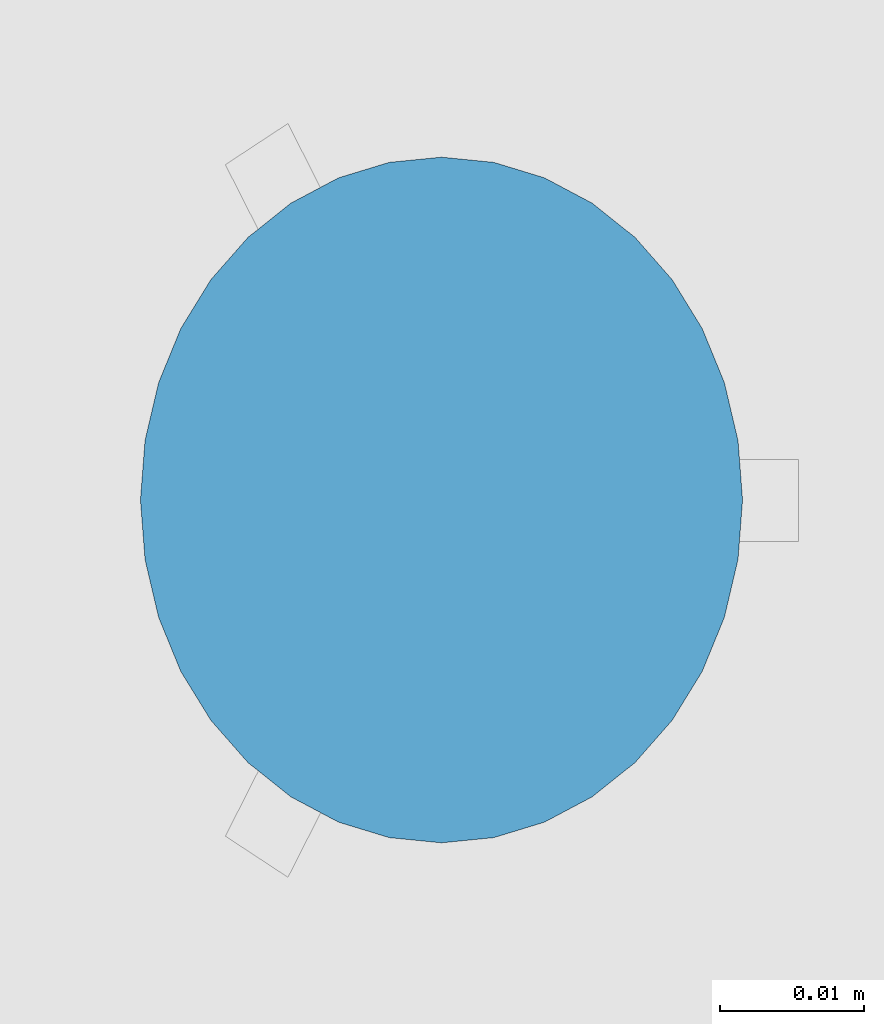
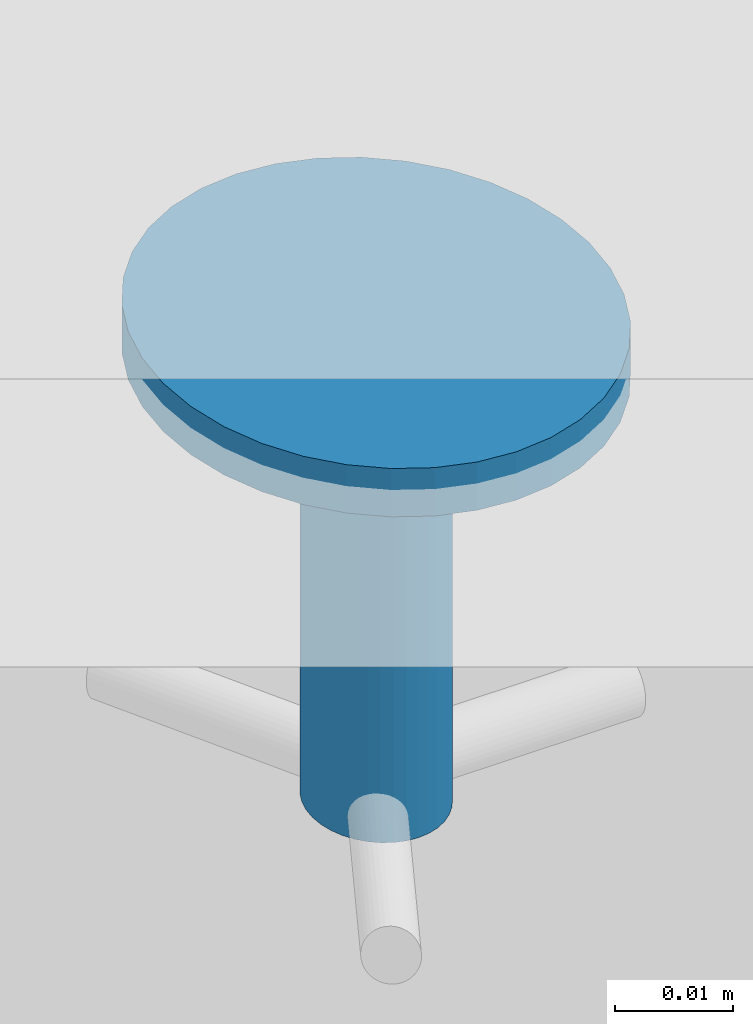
# One storey, part 289 of 788: 1 building element part, 1 element without a shape of its own.
"""IFC2X3 building model written with IfcOpenShell, lengths in millimetres."""

from ifc_helpers import new_model, entity, si_unit, converted_unit, derived_unit, money_unit, direction, frame, origin_with_axes, place, context, subcontext, project, spatial, faceted_brep, source, transform, mapped, material, type_object, element, aggregate, save


model = new_model("IFC2X3")

# Units and contexts
model_context = context("Model", 3, precision=0.01, world=origin_with_axes(), true_north=direction((0.0, 1.0)))
plan_context = context("Plan", 3, precision=0.01, world=origin_with_axes(), true_north=direction((0.0, 1.0)))
body_context = subcontext(model_context, "Body", "Model", "MODEL_VIEW")
ifc_project = project(units=[si_unit("LENGTHUNIT", "METRE", prefix="MILLI"), si_unit("AREAUNIT", "SQUARE_METRE"), si_unit("VOLUMEUNIT", "CUBIC_METRE"), converted_unit("PLANEANGLEUNIT", "DEGREE", entity("IfcPlaneAngleMeasure", 0.0174532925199), si_unit("PLANEANGLEUNIT", "RADIAN"), dimensions=[0, 0, 0, 0, 0, 0, 0]), money_unit("EUR"), converted_unit("TIMEUNIT", "Year", entity("IfcTimeMeasure", 31556926.0), si_unit("TIMEUNIT", "SECOND"), dimensions=[0, 0, 1, 0, 0, 0, 0]), si_unit("MASSUNIT", "GRAM", prefix="KILO"), si_unit("THERMODYNAMICTEMPERATUREUNIT", "DEGREE_CELSIUS"), si_unit("LUMINOUSINTENSITYUNIT", "LUMEN"), si_unit("ENERGYUNIT", "JOULE", prefix="MEGA"), derived_unit("THERMALCONDUCTANCEUNIT", [(si_unit("POWERUNIT", "WATT"), 1), (si_unit("LENGTHUNIT", "METRE"), -1), (si_unit("THERMODYNAMICTEMPERATUREUNIT", "KELVIN"), -1)]), derived_unit("SPECIFICHEATCAPACITYUNIT", [(si_unit("ENERGYUNIT", "JOULE"), 1), (si_unit("MASSUNIT", "GRAM", prefix="KILO"), -1), (si_unit("THERMODYNAMICTEMPERATUREUNIT", "KELVIN"), -1)]), derived_unit("MASSDENSITYUNIT", [(si_unit("MASSUNIT", "GRAM", prefix="KILO"), 1), (si_unit("VOLUMEUNIT", "CUBIC_METRE"), -1)])], contexts=[model_context, plan_context])

# Site, building, storey
site_placement = place(None, origin_with_axes())
site = spatial("IfcSite", under=ifc_project, at=site_placement, Name="Site", CompositionType="ELEMENT")
building_placement = place(site_placement, origin_with_axes())
building = spatial("IfcBuilding", under=site, at=building_placement, Name="Naam gebouw", CompositionType="ELEMENT")
storey_placement = place(building_placement, origin_with_axes())
storey = spatial("IfcBuildingStorey", under=building, at=storey_placement, Name="Begane grond", CompositionType="ELEMENT", Elevation=0.0)

# Proxy, building element part
building_element_proxy_type = type_object("IfcBuildingElementProxyType", Name="plafondhaak", PredefinedType="NOTDEFINED")
proxy_placement = place(storey_placement, frame((48308.597223, 15372.7087123, 960.0), z_axis=(0.0, 0.0, 1.0), x_axis=(1.0, 0.0, 0.0)))
proxy = element("IfcBuildingElementProxy", 1, at=proxy_placement, inside=storey, type_object=building_element_proxy_type, Name="garderobehaak")
ifc_material = material(Name="_Dichte arcering")
shared_shape = source(origin_with_axes(), body_context, "Body", "Brep", [
    faceted_brep([(-17.5871200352, 3.81461944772, 50.0), (-17.5871200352, 3.81461944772, 45.0), (-14.2952839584, 5.56266277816, 45.0), (-14.2952839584, 5.56266277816, 50.0), (-21.0954971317, 2.74408618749, 50.0), (-21.0954971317, 2.74408618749, 45.0), (-5.13338153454, 17.9967404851, 45.0), (-6.66838990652, 14.2480494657, 45.0), (-8.75169938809, 10.8598540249, 45.0), (-11.3200096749, 7.93510276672, 45.0), (-24.7138149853, 2.38359060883, 45.0), (-28.3321328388, 2.74408618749, 45.0), (-31.8405099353, 3.81461944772, 45.0), (-35.1323460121, 5.56266277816, 45.0), (-38.1076202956, 7.93510276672, 45.0), (-40.6759305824, 10.8598540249, 45.0), (-42.759240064, 14.2480494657, 45.0), (-44.294248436, 17.9967404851, 45.0), (-45.2343152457, 21.9920250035, 45.0), (-45.550877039, 26.1125083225, 45.0), (-45.2343152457, 30.2329916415, 45.0), (-44.294248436, 34.2282761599, 45.0), (-42.759240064, 37.9769671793, 45.0), (-40.6759305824, 41.3651626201, 45.0), (-38.1076202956, 44.2899138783, 45.0), (-35.1323460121, 46.6623538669, 45.0), (-31.8405099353, 48.4103971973, 45.0), (-28.3321328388, 49.4809304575, 45.0), (-24.7138149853, 49.8414260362, 45.0), (-21.0954971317, 49.4809304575, 45.0), (-17.5871200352, 48.4103971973, 45.0), (-14.2952839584, 46.6623538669, 45.0), (-11.3200096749, 44.2899138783, 45.0), (-8.75169938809, 41.3651626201, 45.0), (-6.66838990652, 37.9769671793, 45.0), (-5.13338153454, 34.2282761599, 45.0), (-4.19331472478, 30.2329916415, 45.0), (-3.87675293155, 26.1125083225, 45.0), (-4.19331472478, 21.9920250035, 45.0), (-24.7138149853, 18.9938330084, 45.0), (-23.6283196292, 19.101981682, 45.0), (-22.5758065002, 19.4231416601, 45.0), (-21.5882556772, 19.9475546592, 45.0), (-20.6956733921, 20.6592866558, 45.0), (-19.9251803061, 21.5367120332, 45.0), (-19.3001874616, 22.5531706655, 45.0), (-18.83968495, 23.6777779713, 45.0), (-18.5576649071, 24.8763633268, 45.0), (-18.4626963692, 26.1125083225, 45.0), (-18.5576649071, 27.3486533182, 45.0), (-18.83968495, 28.5472386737, 45.0), (-19.3001874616, 29.6718459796, 45.0), (-19.9251803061, 30.6883046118, 45.0), (-20.6956733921, 31.5657299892, 45.0), (-21.5882556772, 32.2774619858, 45.0), (-22.5758065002, 32.8018749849, 45.0), (-23.6283196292, 33.123034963, 45.0), (-24.7138149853, 33.2311836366, 45.0), (-25.7993103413, 33.123034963, 45.0), (-26.8518234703, 32.8018749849, 45.0), (-27.8393742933, 32.2774619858, 45.0), (-28.7319565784, 31.5657299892, 45.0), (-29.5024496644, 30.6883046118, 45.0), (-30.1274425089, 29.6718459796, 45.0), (-30.5879450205, 28.5472386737, 45.0), (-30.8699650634, 27.3486533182, 45.0), (-30.9649336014, 26.1125083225, 45.0), (-30.8699650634, 24.8763633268, 45.0), (-30.5879450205, 23.6777779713, 45.0), (-30.1274425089, 22.5531706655, 45.0), (-29.5024496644, 21.5367120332, 45.0), (-28.7319565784, 20.6592866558, 45.0), (-27.8393742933, 19.9475546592, 45.0), (-26.8518234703, 19.4231416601, 45.0), (-25.7993103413, 19.101981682, 45.0), (-11.3200096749, 7.93510276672, 50.0), (-8.75169938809, 10.8598540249, 50.0), (-6.66838990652, 14.2480494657, 50.0), (-5.13338153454, 17.9967404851, 50.0), (-4.19331472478, 21.9920250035, 50.0), (-3.87675293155, 26.1125083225, 50.0), (-4.19331472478, 30.2329916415, 50.0), (-5.13338153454, 34.2282761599, 50.0), (-6.66838990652, 37.9769671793, 50.0), (-8.75169938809, 41.3651626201, 50.0), (-11.3200096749, 44.2899138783, 50.0), (-14.2952839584, 46.6623538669, 50.0), (-17.5871200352, 48.4103971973, 50.0), (-21.0954971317, 49.4809304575, 50.0), (-24.7138149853, 49.8414260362, 50.0), (-28.3321328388, 49.4809304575, 50.0), (-31.8405099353, 48.4103971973, 50.0), (-35.1323460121, 46.6623538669, 50.0), (-38.1076202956, 44.2899138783, 50.0), (-40.6759305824, 41.3651626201, 50.0), (-42.759240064, 37.9769671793, 50.0), (-44.294248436, 34.2282761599, 50.0), (-45.2343152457, 30.2329916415, 50.0), (-45.550877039, 26.1125083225, 50.0), (-45.2343152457, 21.9920250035, 50.0), (-44.294248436, 17.9967404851, 50.0), (-42.759240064, 14.2480494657, 50.0), (-40.6759305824, 10.8598540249, 50.0), (-38.1076202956, 7.93510276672, 50.0), (-35.1323460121, 5.56266277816, 50.0), (-31.8405099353, 3.81461944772, 50.0), (-28.3321328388, 2.74408618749, 50.0), (-24.7138149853, 2.38359060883, 50.0), (-24.7138149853, 18.9938330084, 0.0), (-23.6283196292, 19.101981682, 0.0), (-22.5758065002, 19.4231416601, 0.0), (-21.5882556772, 19.9475546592, 0.0), (-20.6956733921, 20.6592866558, 0.0), (-19.9251803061, 21.5367120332, 0.0), (-19.3001874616, 22.5531706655, 0.0), (-18.83968495, 23.6777779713, 0.0), (-18.5576649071, 24.8763633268, 0.0), (-18.4626963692, 26.1125083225, 0.0), (-18.5576649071, 27.3486533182, 0.0), (-18.83968495, 28.5472386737, 0.0), (-19.3001874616, 29.6718459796, 0.0), (-19.9251803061, 30.6883046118, 0.0), (-20.6956733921, 31.5657299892, 0.0), (-21.5882556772, 32.2774619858, 0.0), (-22.5758065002, 32.8018749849, 0.0), (-23.6283196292, 33.123034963, 0.0), (-24.7138149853, 33.2311836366, 0.0), (-25.7993103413, 33.123034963, 0.0), (-26.8518234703, 32.8018749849, 0.0), (-27.8393742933, 32.2774619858, 0.0), (-28.7319565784, 31.5657299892, 0.0), (-29.5024496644, 30.6883046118, 0.0), (-30.1274425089, 29.6718459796, 0.0), (-30.5879450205, 28.5472386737, 0.0), (-30.8699650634, 27.3486533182, 0.0), (-30.9649336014, 26.1125083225, 0.0), (-30.8699650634, 24.8763633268, 0.0), (-30.5879450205, 23.6777779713, 0.0), (-30.1274425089, 22.5531706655, 0.0), (-29.5024496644, 21.5367120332, 0.0), (-28.7319565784, 20.6592866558, 0.0), (-27.8393742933, 19.9475546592, 0.0), (-26.8518234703, 19.4231416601, 0.0), (-25.7993103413, 19.101981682, 0.0)], [[[0, 1, 2, 3]], [[0, 4, 5, 1]], [[6, 7, 8, 9, 2, 1, 5, 10, 11, 12, 13, 14, 15, 16, 17, 18, 19, 20, 21, 22, 23, 24, 25, 26, 27, 28, 29, 30, 31, 32, 33, 34, 35, 36, 37, 38], [39, 40, 41, 42, 43, 44, 45, 46, 47, 48, 49, 50, 51, 52, 53, 54, 55, 56, 57, 58, 59, 60, 61, 62, 63, 64, 65, 66, 67, 68, 69, 70, 71, 72, 73, 74]], [[3, 2, 9, 75]], [[3, 75, 76, 77, 78, 79, 80, 81, 82, 83, 84, 85, 86, 87, 88, 89, 90, 91, 92, 93, 94, 95, 96, 97, 98, 99, 100, 101, 102, 103, 104, 105, 106, 107, 4, 0]], [[107, 10, 5, 4]], [[77, 7, 6, 78]], [[76, 8, 7, 77]], [[9, 8, 76, 75]], [[106, 11, 10, 107]], [[105, 12, 11, 106]], [[104, 13, 12, 105]], [[103, 14, 13, 104]], [[103, 102, 15, 14]], [[102, 101, 16, 15]], [[100, 17, 16, 101]], [[99, 18, 17, 100]], [[98, 19, 18, 99]], [[97, 20, 19, 98]], [[96, 21, 20, 97]], [[95, 22, 21, 96]], [[94, 23, 22, 95]], [[93, 24, 23, 94]], [[92, 25, 24, 93]], [[91, 26, 25, 92]], [[90, 27, 26, 91]], [[89, 28, 27, 90]], [[88, 29, 28, 89]], [[30, 29, 88, 87]], [[31, 30, 87, 86]], [[32, 31, 86, 85]], [[33, 32, 85, 84]], [[83, 34, 33, 84]], [[82, 35, 34, 83]], [[81, 36, 35, 82]], [[80, 37, 36, 81]], [[79, 38, 37, 80]], [[78, 6, 38, 79]], [[40, 39, 108, 109]], [[41, 40, 109, 110]], [[110, 111, 42, 41]], [[43, 42, 111, 112]], [[112, 113, 44, 43]], [[113, 114, 45, 44]], [[114, 115, 46, 45]], [[47, 46, 115, 116]], [[116, 117, 48, 47]], [[117, 118, 49, 48]], [[118, 119, 50, 49]], [[119, 120, 51, 50]], [[120, 121, 52, 51]], [[53, 52, 121, 122]], [[122, 123, 54, 53]], [[123, 124, 55, 54]], [[124, 125, 56, 55]], [[125, 126, 57, 56]], [[58, 57, 126, 127]], [[59, 58, 127, 128]], [[60, 59, 128, 129]], [[129, 130, 61, 60]], [[130, 131, 62, 61]], [[131, 132, 63, 62]], [[64, 63, 132, 133]], [[65, 64, 133, 134]], [[66, 65, 134, 135]], [[135, 136, 67, 66]], [[68, 67, 136, 137]], [[137, 138, 69, 68]], [[70, 69, 138, 139]], [[71, 70, 139, 140]], [[72, 71, 140, 141]], [[73, 72, 141, 142]], [[74, 73, 142, 143]], [[39, 74, 143, 108]], [[109, 108, 143, 142, 141, 140, 139, 138, 137, 136, 135, 134, 133, 132, 131, 130, 129, 128, 127, 126, 125, 124, 123, 122, 121, 120, 119, 118, 117, 116, 115, 114, 113, 112, 111, 110]]]),
])
building_element_part_placement = place(proxy_placement, origin_with_axes())
building_element_part = element("IfcBuildingElementPart", 2, at=building_element_part_placement, material=ifc_material, Name="_Dichte arcering", context=body_context, shape_type="MappedRepresentation", body=[
    mapped(shared_shape, transform((0.0, 0.0, 0.0))),
])
aggregate(proxy, [building_element_part])

save(model, "model.ifc")
